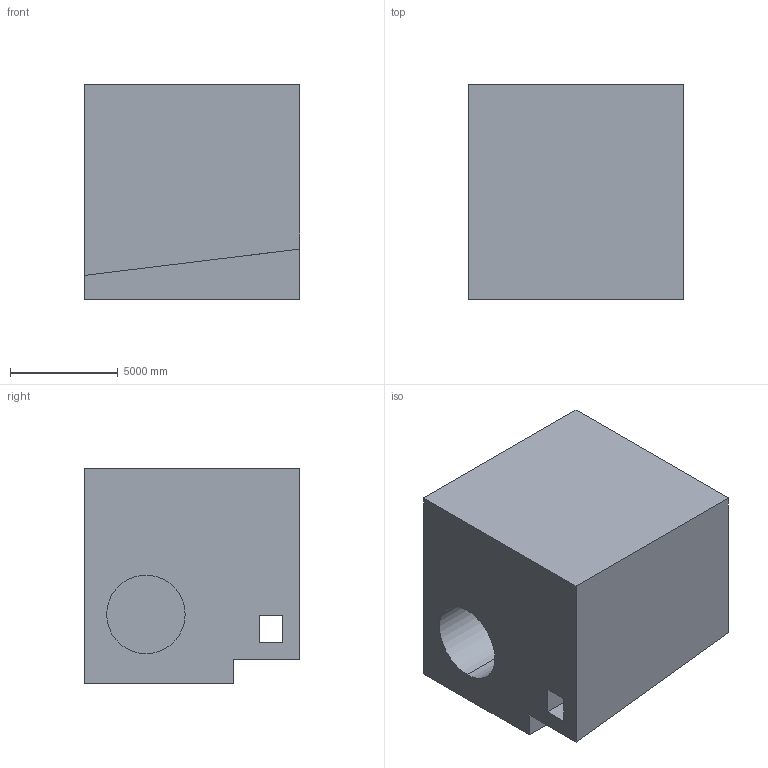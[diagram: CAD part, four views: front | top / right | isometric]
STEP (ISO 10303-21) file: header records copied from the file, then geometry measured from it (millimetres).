
FILE_DESCRIPTION (( 'STEP AP203' ), '1' );
FILE_NAME ('394.STEP', '2022-07-29T11:06:44', ( 'user' ), ( '' ), 'SwSTEP 2.0', 'SolidWorks 2021', '' );
FILE_SCHEMA (( 'CONFIG_CONTROL_DESIGN' ));
Length unit declared in the file: centimetre
Products named in the file (1): 394
Bounding box: 10000 x 10000 x 10000 mm (x, y, z)
Volume: 818673624033.3 mm3; surface area: 782488357.5 mm2
Topology: 1 solids, 1 shells, 21 faces, 51 edges, 34 vertices
Faces by surface type: plane 15, cylinder 6
Entity records: 698 total; most frequent: CARTESIAN_POINT 107, DIRECTION 107, ORIENTED_EDGE 102, EDGE_CURVE 51, VECTOR 39, LINE 39, AXIS2_PLACEMENT_3D 34, VERTEX_POINT 34
